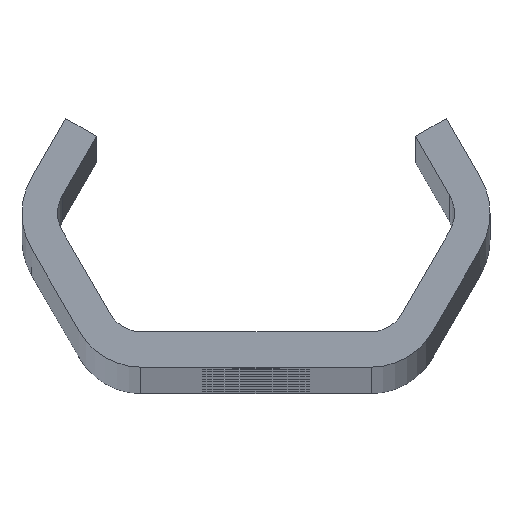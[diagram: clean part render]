
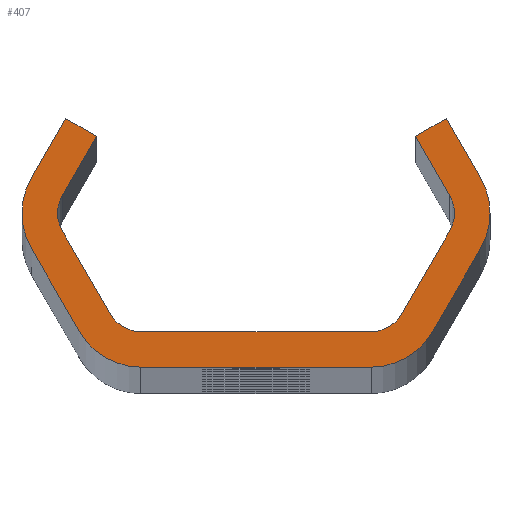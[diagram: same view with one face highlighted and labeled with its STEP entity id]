
A CAD part, top view. The second image highlights one B-rep face of the part: STEP entity #407.
In plain terms, the highlighted planar face has unit normal (0, 0, 1).
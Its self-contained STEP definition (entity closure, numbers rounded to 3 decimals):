
#407=ADVANCED_FACE('NONE',(#1101),#1102,.F.);
#1101=FACE_OUTER_BOUND('',#3419,.T.);
#1102=PLANE('',#3420);
#3419=EDGE_LOOP('',(#6875,#6876,#6877,#6878,#6879,#6880,#6881,#6882,#6883,#6884,#6885,#6886,#6887,#6888,#6889,#6890,#6891,#6892,#6893,#6894,#6895,#6896,#6897,#6898));
#3420=AXIS2_PLACEMENT_3D('',#6899,#6900,#6901);
#6875=ORIENTED_EDGE('',*,*,#9205,.T.);
#6876=ORIENTED_EDGE('',*,*,#9232,.T.);
#6877=ORIENTED_EDGE('',*,*,#8995,.T.);
#6878=ORIENTED_EDGE('',*,*,#9207,.T.);
#6879=ORIENTED_EDGE('',*,*,#9233,.T.);
#6880=ORIENTED_EDGE('',*,*,#9211,.T.);
#6881=ORIENTED_EDGE('',*,*,#9234,.T.);
#6882=ORIENTED_EDGE('',*,*,#9002,.T.);
#6883=ORIENTED_EDGE('',*,*,#9235,.T.);
#6884=ORIENTED_EDGE('',*,*,#8828,.T.);
#6885=ORIENTED_EDGE('',*,*,#9005,.T.);
#6886=ORIENTED_EDGE('',*,*,#9011,.T.);
#6887=ORIENTED_EDGE('',*,*,#9014,.T.);
#6888=ORIENTED_EDGE('',*,*,#8992,.T.);
#6889=ORIENTED_EDGE('',*,*,#9236,.T.);
#6890=ORIENTED_EDGE('',*,*,#9016,.T.);
#6891=ORIENTED_EDGE('',*,*,#9237,.T.);
#6892=ORIENTED_EDGE('',*,*,#9023,.T.);
#6893=ORIENTED_EDGE('',*,*,#9238,.T.);
#6894=ORIENTED_EDGE('',*,*,#9192,.T.);
#6895=ORIENTED_EDGE('',*,*,#9239,.T.);
#6896=ORIENTED_EDGE('',*,*,#8823,.T.);
#6897=ORIENTED_EDGE('',*,*,#9195,.T.);
#6898=ORIENTED_EDGE('',*,*,#9201,.T.);
#6899=CARTESIAN_POINT('',(0.0,0.0,1280.0));
#6900=DIRECTION('',(0.0,0.0,-1.0));
#6901=DIRECTION('',(0.0,-1.0,0.0));
#8823=EDGE_CURVE('NONE',#9852,#9856,#9858,.T.);
#8828=EDGE_CURVE('NONE',#9861,#9865,#9867,.T.);
#8992=EDGE_CURVE('NONE',#10162,#10160,#10163,.T.);
#8995=EDGE_CURVE('NONE',#10166,#10167,#10168,.T.);
#9002=EDGE_CURVE('NONE',#10180,#10178,#10181,.T.);
#9005=EDGE_CURVE('NONE',#9865,#10184,#10185,.T.);
#9011=EDGE_CURVE('NONE',#10184,#10192,#10194,.T.);
#9014=EDGE_CURVE('NONE',#10192,#10162,#10197,.T.);
#9016=EDGE_CURVE('NONE',#10199,#10200,#10201,.T.);
#9023=EDGE_CURVE('NONE',#10213,#10211,#10214,.T.);
#9192=EDGE_CURVE('NONE',#10526,#10524,#10527,.T.);
#9195=EDGE_CURVE('NONE',#9856,#10530,#10531,.T.);
#9201=EDGE_CURVE('NONE',#10530,#10538,#10540,.T.);
#9205=EDGE_CURVE('NONE',#10538,#10544,#10546,.T.);
#9207=EDGE_CURVE('NONE',#10167,#10548,#10549,.T.);
#9211=EDGE_CURVE('NONE',#10554,#10555,#10556,.T.);
#9232=EDGE_CURVE('NONE',#10544,#10166,#10579,.T.);
#9233=EDGE_CURVE('NONE',#10548,#10554,#10580,.T.);
#9234=EDGE_CURVE('NONE',#10555,#10180,#10581,.T.);
#9235=EDGE_CURVE('NONE',#10178,#9861,#10582,.T.);
#9236=EDGE_CURVE('NONE',#10160,#10199,#10583,.T.);
#9237=EDGE_CURVE('NONE',#10200,#10213,#10584,.T.);
#9238=EDGE_CURVE('NONE',#10211,#10526,#10585,.T.);
#9239=EDGE_CURVE('NONE',#10524,#9852,#10586,.T.);
#9852=VERTEX_POINT('',#11379);
#9856=VERTEX_POINT('NONE',#11384);
#9858=CIRCLE('',#11387,3.0);
#9861=VERTEX_POINT('',#11390);
#9865=VERTEX_POINT('NONE',#11395);
#9867=CIRCLE('',#11398,6.0);
#10160=VERTEX_POINT('NONE',#13123);
#10162=VERTEX_POINT('NONE',#13126);
#10163=CIRCLE('',#13127,3.0);
#10166=VERTEX_POINT('NONE',#13131);
#10167=VERTEX_POINT('NONE',#13132);
#10168=CIRCLE('',#13133,6.0);
#10178=VERTEX_POINT('NONE',#13146);
#10180=VERTEX_POINT('NONE',#13149);
#10181=LINE('',#13150,#13151);
#10184=VERTEX_POINT('NONE',#13155);
#10185=LINE('',#13156,#13157);
#10192=VERTEX_POINT('NONE',#13167);
#10194=LINE('',#13170,#13171);
#10197=LINE('',#13175,#13176);
#10199=VERTEX_POINT('NONE',#13178);
#10200=VERTEX_POINT('NONE',#13179);
#10201=LINE('',#13180,#13181);
#10211=VERTEX_POINT('NONE',#13195);
#10213=VERTEX_POINT('NONE',#13198);
#10214=LINE('',#13199,#13200);
#10524=VERTEX_POINT('NONE',#14312);
#10526=VERTEX_POINT('NONE',#14315);
#10527=LINE('',#14316,#14317);
#10530=VERTEX_POINT('NONE',#14321);
#10531=LINE('',#14322,#14323);
#10538=VERTEX_POINT('NONE',#14333);
#10540=LINE('',#14336,#14337);
#10544=VERTEX_POINT('NONE',#14342);
#10546=LINE('',#14345,#14346);
#10548=VERTEX_POINT('NONE',#14348);
#10549=LINE('',#14349,#14350);
#10554=VERTEX_POINT('NONE',#14357);
#10555=VERTEX_POINT('NONE',#14358);
#10556=LINE('',#14359,#14360);
#10579=CIRCLE('',#14386,6.0);
#10580=CIRCLE('',#14387,6.0);
#10581=CIRCLE('',#14388,6.0);
#10582=CIRCLE('',#14389,6.0);
#10583=CIRCLE('',#14390,3.0);
#10584=CIRCLE('',#14391,3.0);
#10585=CIRCLE('',#14392,3.0);
#10586=CIRCLE('',#14393,3.0);
#11379=CARTESIAN_POINT('',(-16.764,0.,1280.0));
#11384=CARTESIAN_POINT('',(-16.362,1.5,1280.0));
#11387=AXIS2_PLACEMENT_3D('',#16989,#16990,#16991);
#11390=CARTESIAN_POINT('',(19.764,0.,1280.0));
#11395=CARTESIAN_POINT('',(18.96,3.,1280.0));
#11398=AXIS2_PLACEMENT_3D('',#16997,#16998,#16999);
#13123=CARTESIAN_POINT('',(16.764,0.,1280.0));
#13126=CARTESIAN_POINT('',(16.362,1.5,1280.0));
#13127=AXIS2_PLACEMENT_3D('',#17164,#17165,#17166);
#13131=CARTESIAN_POINT('',(-19.764,0.,1280.0));
#13132=CARTESIAN_POINT('',(-18.96,-3.,1280.0));
#13133=AXIS2_PLACEMENT_3D('',#17168,#17169,#17170);
#13146=CARTESIAN_POINT('',(18.96,-3.,1280.0));
#13149=CARTESIAN_POINT('',(14.919,-10.,1280.0));
#13150=CARTESIAN_POINT('',(20.692,0.,1280.0));
#13151=VECTOR('',#17178,1000.0);
#13155=CARTESIAN_POINT('',(16.074,8.,1280.0));
#13156=CARTESIAN_POINT('',(16.074,8.,1280.0));
#13157=VECTOR('',#17180,1000.0);
#13167=CARTESIAN_POINT('',(13.475,6.5,1280.0));
#13170=CARTESIAN_POINT('',(13.475,6.5,1280.0));
#13171=VECTOR('',#17185,1000.0);
#13175=CARTESIAN_POINT('',(17.228,0.,1280.0));
#13176=VECTOR('',#17187,1000.0);
#13178=CARTESIAN_POINT('',(16.362,-1.5,1280.0));
#13179=CARTESIAN_POINT('',(12.321,-8.5,1280.0));
#13180=CARTESIAN_POINT('',(11.455,-10.0,1280.0));
#13181=VECTOR('',#17188,1000.0);
#13195=CARTESIAN_POINT('',(-9.723,-10.0,1280.0));
#13198=CARTESIAN_POINT('',(9.723,-10.0,1280.0));
#13199=CARTESIAN_POINT('',(-11.455,-10.0,1280.0));
#13200=VECTOR('',#17194,1000.0);
#14312=CARTESIAN_POINT('',(-16.362,-1.5,1280.0));
#14315=CARTESIAN_POINT('',(-12.321,-8.5,1280.0));
#14316=CARTESIAN_POINT('',(-17.228,0.,1280.0));
#14317=VECTOR('',#17378,1000.0);
#14321=CARTESIAN_POINT('',(-13.475,6.5,1280.0));
#14322=CARTESIAN_POINT('',(-13.475,6.5,1280.0));
#14323=VECTOR('',#17380,1000.0);
#14333=CARTESIAN_POINT('',(-16.074,8.,1280.0));
#14336=CARTESIAN_POINT('',(-13.475,6.5,1280.0));
#14337=VECTOR('',#17385,1000.0);
#14342=CARTESIAN_POINT('',(-18.96,3.,1280.0));
#14345=CARTESIAN_POINT('',(-16.074,8.,1280.0));
#14346=VECTOR('',#17388,1000.0);
#14348=CARTESIAN_POINT('',(-14.919,-10.,1280.0));
#14349=CARTESIAN_POINT('',(-20.692,0.,1280.0));
#14350=VECTOR('',#17389,1000.0);
#14357=CARTESIAN_POINT('',(-9.723,-13.0,1280.0));
#14358=CARTESIAN_POINT('',(9.723,-13.0,1280.0));
#14359=CARTESIAN_POINT('',(-13.187,-13.0,1280.0));
#14360=VECTOR('',#17392,1000.0);
#14386=AXIS2_PLACEMENT_3D('',#17444,#17445,#17446);
#14387=AXIS2_PLACEMENT_3D('',#17447,#17448,#17449);
#14388=AXIS2_PLACEMENT_3D('',#17450,#17451,#17452);
#14389=AXIS2_PLACEMENT_3D('',#17453,#17454,#17455);
#14390=AXIS2_PLACEMENT_3D('',#17456,#17457,#17458);
#14391=AXIS2_PLACEMENT_3D('',#17459,#17460,#17461);
#14392=AXIS2_PLACEMENT_3D('',#17462,#17463,#17464);
#14393=AXIS2_PLACEMENT_3D('',#17465,#17466,#17467);
#16989=CARTESIAN_POINT('',(-13.764,0.,1280.0));
#16990=DIRECTION('',(0.0,0.0,-1.0));
#16991=DIRECTION('',(-1.0,0.0,0.0));
#16997=CARTESIAN_POINT('',(13.764,0.,1280.0));
#16998=DIRECTION('',(0.0,0.0,1.0));
#16999=DIRECTION('',(-1.0,0.0,0.0));
#17164=CARTESIAN_POINT('',(13.764,0.,1280.0));
#17165=DIRECTION('',(0.0,0.0,-1.0));
#17166=DIRECTION('',(-1.0,0.0,0.0));
#17168=CARTESIAN_POINT('',(-13.764,0.,1280.0));
#17169=DIRECTION('',(0.0,0.0,1.0));
#17170=DIRECTION('',(-1.0,0.0,0.0));
#17178=DIRECTION('',(0.5,0.866,-0.0));
#17180=DIRECTION('',(-0.5,0.866,-0.0));
#17185=DIRECTION('',(-0.866,-0.5,-0.0));
#17187=DIRECTION('',(0.5,-0.866,-0.0));
#17188=DIRECTION('',(-0.5,-0.866,-0.0));
#17194=DIRECTION('',(-1.0,0.,-0.0));
#17378=DIRECTION('',(-0.5,0.866,-0.0));
#17380=DIRECTION('',(0.5,0.866,-0.0));
#17385=DIRECTION('',(-0.866,0.5,0.0));
#17388=DIRECTION('',(-0.5,-0.866,0.0));
#17389=DIRECTION('',(0.5,-0.866,0.0));
#17392=DIRECTION('',(1.0,0.0,0.0));
#17444=CARTESIAN_POINT('',(-13.764,0.,1280.0));
#17445=DIRECTION('',(0.0,0.0,1.0));
#17446=DIRECTION('',(-1.0,0.0,0.0));
#17447=CARTESIAN_POINT('',(-9.723,-7.0,1280.0));
#17448=DIRECTION('',(0.0,0.0,1.0));
#17449=DIRECTION('',(-1.0,0.0,0.0));
#17450=CARTESIAN_POINT('',(9.723,-7.0,1280.0));
#17451=DIRECTION('',(0.0,0.0,1.0));
#17452=DIRECTION('',(-1.0,0.,0.0));
#17453=CARTESIAN_POINT('',(13.764,0.,1280.0));
#17454=DIRECTION('',(0.0,0.0,1.0));
#17455=DIRECTION('',(-1.0,0.0,0.0));
#17456=CARTESIAN_POINT('',(13.764,0.,1280.0));
#17457=DIRECTION('',(0.0,0.0,-1.0));
#17458=DIRECTION('',(-1.0,0.0,0.0));
#17459=CARTESIAN_POINT('',(9.723,-7.0,1280.0));
#17460=DIRECTION('',(0.0,0.0,-1.0));
#17461=DIRECTION('',(-1.0,0.0,0.0));
#17462=CARTESIAN_POINT('',(-9.723,-7.0,1280.0));
#17463=DIRECTION('',(0.0,0.0,-1.0));
#17464=DIRECTION('',(-1.0,0.0,0.0));
#17465=CARTESIAN_POINT('',(-13.764,0.,1280.0));
#17466=DIRECTION('',(0.0,0.0,-1.0));
#17467=DIRECTION('',(-1.0,0.0,0.0));
